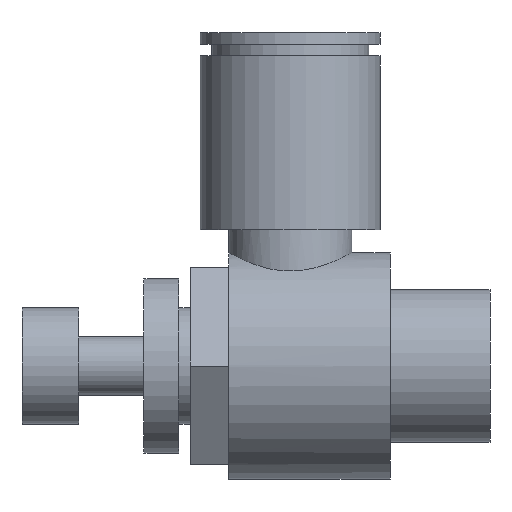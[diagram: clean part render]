
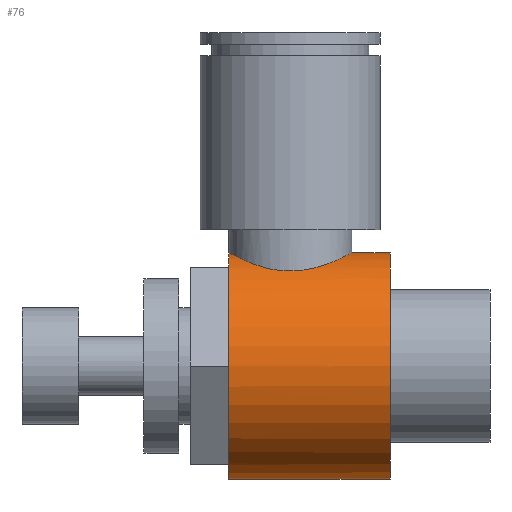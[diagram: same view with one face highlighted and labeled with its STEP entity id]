
A CAD part, left-side view. The second image highlights one B-rep face of the part: STEP entity #76.
In plain terms, the highlighted cylindrical face has radius 9.75 mm (diameter 19.5 mm), a partial arc.
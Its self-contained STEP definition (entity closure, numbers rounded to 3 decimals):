
#76 = ADVANCED_FACE( '', ( #130 ), #131, .T. );
#130 = FACE_OUTER_BOUND( '', #243, .T. );
#131 = CYLINDRICAL_SURFACE( '', #244, 9.75 );
#243 = EDGE_LOOP( '', ( #361, #362, #363, #364, #365, #366, #367, #368, #369, #370, #371 ) );
#244 = AXIS2_PLACEMENT_3D( '', #372, #373, #374 );
#361 = ORIENTED_EDGE( '', *, *, #730, .F. );
#362 = ORIENTED_EDGE( '', *, *, #731, .T. );
#363 = ORIENTED_EDGE( '', *, *, #732, .T. );
#364 = ORIENTED_EDGE( '', *, *, #733, .T. );
#365 = ORIENTED_EDGE( '', *, *, #734, .T. );
#366 = ORIENTED_EDGE( '', *, *, #735, .T. );
#367 = ORIENTED_EDGE( '', *, *, #736, .T. );
#368 = ORIENTED_EDGE( '', *, *, #737, .T. );
#369 = ORIENTED_EDGE( '', *, *, #738, .T. );
#370 = ORIENTED_EDGE( '', *, *, #739, .F. );
#371 = ORIENTED_EDGE( '', *, *, #740, .F. );
#372 = CARTESIAN_POINT( '', ( 0., 10.05, 0. ) );
#373 = DIRECTION( '', ( 0., 1., 0. ) );
#374 = DIRECTION( '', ( 0., 0., 1. ) );
#730 = EDGE_CURVE( '', #842, #843, #844, .T. );
#731 = EDGE_CURVE( '', #842, #845, #846, .T. );
#732 = EDGE_CURVE( '', #845, #847, #848, .T. );
#733 = EDGE_CURVE( '', #847, #849, #850, .T. );
#734 = EDGE_CURVE( '', #849, #851, #852, .T. );
#735 = EDGE_CURVE( '', #851, #853, #854, .T. );
#736 = EDGE_CURVE( '', #853, #855, #856, .T. );
#737 = EDGE_CURVE( '', #855, #857, #858, .T. );
#738 = EDGE_CURVE( '', #857, #859, #860, .T. );
#739 = EDGE_CURVE( '', #861, #859, #862, .T. );
#740 = EDGE_CURVE( '', #843, #861, #863, .T. );
#842 = VERTEX_POINT( '', #1019 );
#843 = VERTEX_POINT( '', #1020 );
#844 = LINE( '', #1021, #1022 );
#845 = VERTEX_POINT( '', #1023 );
#846 = B_SPLINE_CURVE_WITH_KNOTS( '', 3, ( #1024, #1025, #1026, #1027, #1028, #1029, #1030, #1031, #1032, #1033, #1034, #1035, #1036, #1037, #1038, #1039, #1040, #1041, #1042, #1043, #1044, #1045, #1046, #1047, #1048, #1049, #1050, #1051, #1052, #1053, #1054, #1055, #1056, #1057, #1058 ), .UNSPECIFIED., .F., .F., ( 4, 2, 2, 2, 2, 2, 2, 2, 3, 2, 2, 2, 2, 2, 2, 2, 4 ), ( 24.553, 25.574, 26.595, 27.616, 28.637, 29.662, 30.687, 31.713, 32.738, 33.763, 34.788, 35.813, 36.838, 37.859, 38.88, 39.901, 40.922 ), .UNSPECIFIED. );
#847 = VERTEX_POINT( '', #1059 );
#848 = CIRCLE( '', #1060, 9.75 );
#849 = VERTEX_POINT( '', #1061 );
#850 = CIRCLE( '', #1062, 9.75 );
#851 = VERTEX_POINT( '', #1063 );
#852 = CIRCLE( '', #1064, 9.75 );
#853 = VERTEX_POINT( '', #1065 );
#854 = CIRCLE( '', #1066, 9.75 );
#855 = VERTEX_POINT( '', #1067 );
#856 = CIRCLE( '', #1068, 9.75 );
#857 = VERTEX_POINT( '', #1069 );
#858 = CIRCLE( '', #1070, 9.75 );
#859 = VERTEX_POINT( '', #1071 );
#860 = CIRCLE( '', #1072, 9.75 );
#861 = VERTEX_POINT( '', #1073 );
#862 = LINE( '', #1074, #1075 );
#863 = CIRCLE( '', #1076, 9.75 );
#1019 = CARTESIAN_POINT( '', ( 0., 6.4, 9.75 ) );
#1020 = CARTESIAN_POINT( '', ( 0., 3.1, 9.75 ) );
#1021 = CARTESIAN_POINT( '', ( 0., 10.05, 9.75 ) );
#1022 = VECTOR( '', #1311, 1. );
#1023 = CARTESIAN_POINT( '', ( 0., 17., 9.75 ) );
#1024 = CARTESIAN_POINT( '', ( 0., 6.4, 9.75 ) );
#1025 = CARTESIAN_POINT( '', ( -0.34, 6.4, 9.75 ) );
#1026 = CARTESIAN_POINT( '', ( -0.69, 6.433, 9.732 ) );
#1027 = CARTESIAN_POINT( '', ( -1.381, 6.571, 9.658 ) );
#1028 = CARTESIAN_POINT( '', ( -1.723, 6.675, 9.602 ) );
#1029 = CARTESIAN_POINT( '', ( -2.374, 6.948, 9.462 ) );
#1030 = CARTESIAN_POINT( '', ( -2.684, 7.117, 9.378 ) );
#1031 = CARTESIAN_POINT( '', ( -3.256, 7.504, 9.195 ) );
#1032 = CARTESIAN_POINT( '', ( -3.517, 7.721, 9.097 ) );
#1033 = CARTESIAN_POINT( '', ( -3.979, 8.184, 8.904 ) );
#1034 = CARTESIAN_POINT( '', ( -4.198, 8.446, 8.803 ) );
#1035 = CARTESIAN_POINT( '', ( -4.584, 9.017, 8.608 ) );
#1036 = CARTESIAN_POINT( '', ( -4.752, 9.327, 8.515 ) );
#1037 = CARTESIAN_POINT( '', ( -5.024, 9.976, 8.357 ) );
#1038 = CARTESIAN_POINT( '', ( -5.129, 10.317, 8.293 ) );
#1039 = CARTESIAN_POINT( '', ( -5.266, 11.008, 8.206 ) );
#1040 = CARTESIAN_POINT( '', ( -5.3, 11.358, 8.184 ) );
#1041 = CARTESIAN_POINT( '', ( -5.3, 11.7, 8.184 ) );
#1042 = CARTESIAN_POINT( '', ( -5.3, 12.042, 8.184 ) );
#1043 = CARTESIAN_POINT( '', ( -5.266, 12.392, 8.206 ) );
#1044 = CARTESIAN_POINT( '', ( -5.129, 13.083, 8.293 ) );
#1045 = CARTESIAN_POINT( '', ( -5.024, 13.424, 8.357 ) );
#1046 = CARTESIAN_POINT( '', ( -4.752, 14.073, 8.515 ) );
#1047 = CARTESIAN_POINT( '', ( -4.584, 14.383, 8.608 ) );
#1048 = CARTESIAN_POINT( '', ( -4.198, 14.954, 8.803 ) );
#1049 = CARTESIAN_POINT( '', ( -3.979, 15.216, 8.904 ) );
#1050 = CARTESIAN_POINT( '', ( -3.517, 15.679, 9.097 ) );
#1051 = CARTESIAN_POINT( '', ( -3.256, 15.896, 9.195 ) );
#1052 = CARTESIAN_POINT( '', ( -2.684, 16.283, 9.378 ) );
#1053 = CARTESIAN_POINT( '', ( -2.374, 16.452, 9.462 ) );
#1054 = CARTESIAN_POINT( '', ( -1.723, 16.725, 9.602 ) );
#1055 = CARTESIAN_POINT( '', ( -1.381, 16.829, 9.658 ) );
#1056 = CARTESIAN_POINT( '', ( -0.69, 16.967, 9.732 ) );
#1057 = CARTESIAN_POINT( '', ( -0.34, 17., 9.75 ) );
#1058 = CARTESIAN_POINT( '', ( 0., 17., 9.75 ) );
#1059 = CARTESIAN_POINT( '', ( -4.776, 17., 8.5 ) );
#1060 = AXIS2_PLACEMENT_3D( '', #1312, #1313, #1314 );
#1061 = CARTESIAN_POINT( '', ( -4.973, 17., 8.386 ) );
#1062 = AXIS2_PLACEMENT_3D( '', #1315, #1316, #1317 );
#1063 = CARTESIAN_POINT( '', ( -9.749, 17., 0.114 ) );
#1064 = AXIS2_PLACEMENT_3D( '', #1318, #1319, #1320 );
#1065 = CARTESIAN_POINT( '', ( -9.749, 17., -0.114 ) );
#1066 = AXIS2_PLACEMENT_3D( '', #1321, #1322, #1323 );
#1067 = CARTESIAN_POINT( '', ( -4.973, 17., -8.386 ) );
#1068 = AXIS2_PLACEMENT_3D( '', #1324, #1325, #1326 );
#1069 = CARTESIAN_POINT( '', ( -4.776, 17., -8.5 ) );
#1070 = AXIS2_PLACEMENT_3D( '', #1327, #1328, #1329 );
#1071 = CARTESIAN_POINT( '', ( 0., 17., -9.75 ) );
#1072 = AXIS2_PLACEMENT_3D( '', #1330, #1331, #1332 );
#1073 = CARTESIAN_POINT( '', ( 0., 3.1, -9.75 ) );
#1074 = CARTESIAN_POINT( '', ( 0., 10.05, -9.75 ) );
#1075 = VECTOR( '', #1333, 1. );
#1076 = AXIS2_PLACEMENT_3D( '', #1334, #1335, #1336 );
#1311 = DIRECTION( '', ( 0., -1., 0. ) );
#1312 = CARTESIAN_POINT( '', ( 0., 17., 0. ) );
#1313 = DIRECTION( '', ( 0., -1., 0. ) );
#1314 = DIRECTION( '', ( 0., 0., 1. ) );
#1315 = CARTESIAN_POINT( '', ( 0., 17., 0. ) );
#1316 = DIRECTION( '', ( 0., -1., 0. ) );
#1317 = DIRECTION( '', ( 0., 0., 1. ) );
#1318 = CARTESIAN_POINT( '', ( 0., 17., 0. ) );
#1319 = DIRECTION( '', ( 0., -1., 0. ) );
#1320 = DIRECTION( '', ( 0., 0., 1. ) );
#1321 = CARTESIAN_POINT( '', ( 0., 17., 0. ) );
#1322 = DIRECTION( '', ( 0., -1., 0. ) );
#1323 = DIRECTION( '', ( 0., 0., 1. ) );
#1324 = CARTESIAN_POINT( '', ( 0., 17., 0. ) );
#1325 = DIRECTION( '', ( 0., -1., 0. ) );
#1326 = DIRECTION( '', ( 0., 0., 1. ) );
#1327 = CARTESIAN_POINT( '', ( 0., 17., 0. ) );
#1328 = DIRECTION( '', ( 0., -1., 0. ) );
#1329 = DIRECTION( '', ( 0., 0., 1. ) );
#1330 = CARTESIAN_POINT( '', ( 0., 17., 0. ) );
#1331 = DIRECTION( '', ( 0., -1., 0. ) );
#1332 = DIRECTION( '', ( 0., 0., 1. ) );
#1333 = DIRECTION( '', ( 0., 1., 0. ) );
#1334 = CARTESIAN_POINT( '', ( 0., 3.1, 0. ) );
#1335 = DIRECTION( '', ( 0., -1., 0. ) );
#1336 = DIRECTION( '', ( 0., 0., 1. ) );
